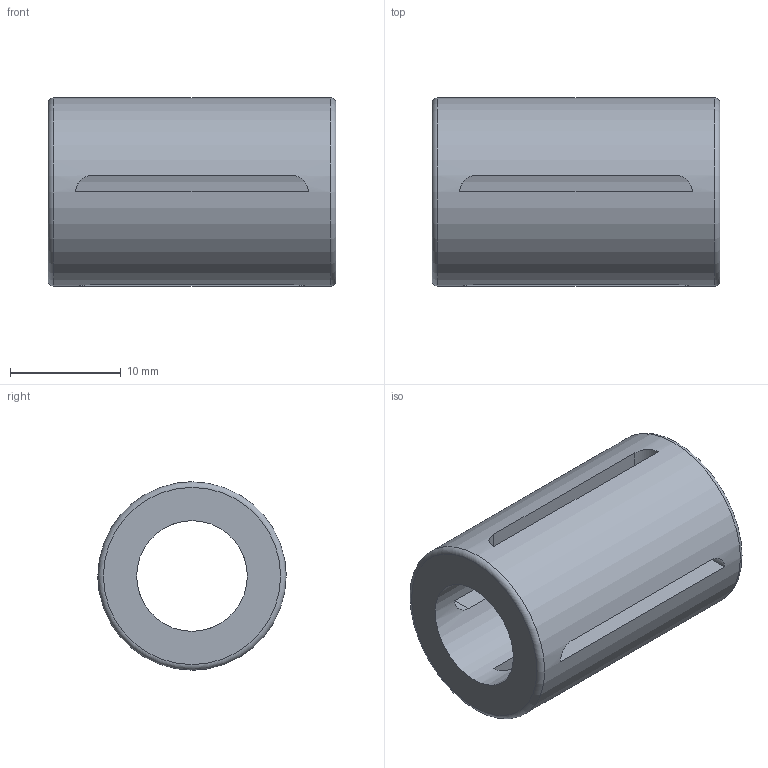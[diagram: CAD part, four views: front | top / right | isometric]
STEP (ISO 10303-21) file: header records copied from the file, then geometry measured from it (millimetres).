
FILE_DESCRIPTION(/* description */ ('Unknown'),/* implementation_level */ '2;1');
FILE_NAME(/* name */ 'KH1026',/* time_stamp */ '2025-02-04T09:44:57+08:00',/* author */ ('Unknown'),/* organization */ ('Unknown'),/* preprocessor_version */ 'ST-DEVELOPER v18.102',/* originating_system */ 'Solid Edge',/* authorisation */ 'Unknown');
FILE_SCHEMA (('AUTOMOTIVE_DESIGN {1 0 10303 214 3 1 1}'));
Length unit declared in the file: millimetre
Products named in the file (1): KH1026
Bounding box: 26 x 17 x 17 mm (x, y, z)
Volume: 3422.6 mm3; surface area: 2852.3 mm2
Topology: 1 solids, 1 shells, 22 faces, 60 edges, 38 vertices
Faces by surface type: cylinder 10, plane 10, torus 2
Full cylindrical faces by diameter (mm): 10 x1, 17 x1
Entity records: 734 total; most frequent: CARTESIAN_POINT 179, ORIENTED_EDGE 108, DIRECTION 90, EDGE_CURVE 54, VERTEX_POINT 38, EDGE_LOOP 36, FACE_BOUND 36, LINE 32
